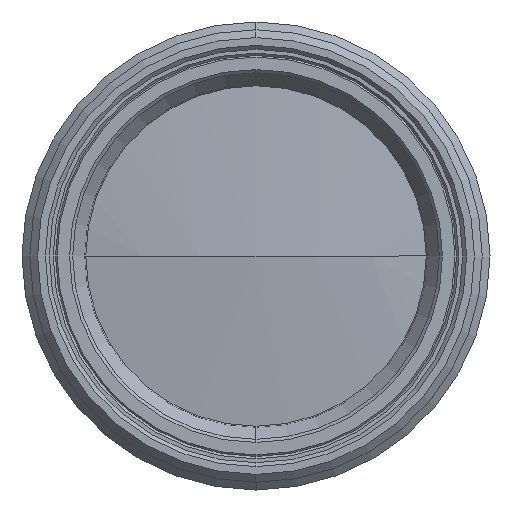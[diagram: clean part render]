
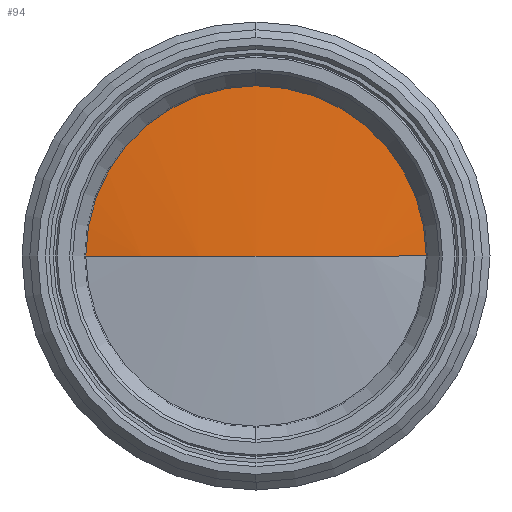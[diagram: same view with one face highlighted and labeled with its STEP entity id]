
A CAD part, left-side view. The second image highlights one B-rep face of the part: STEP entity #94.
In plain terms, the highlighted spherical face has radius 76.4 mm.
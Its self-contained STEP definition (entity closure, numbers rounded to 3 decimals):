
#18 = DIRECTION ( 'NONE',  ( 0., 0., 1. ) ) ;
#94 = ADVANCED_FACE ( 'NONE', ( #2679 ), #2240, .T. ) ;
#128 = ORIENTED_EDGE ( 'NONE', *, *, #1568, .F. ) ;
#184 = CARTESIAN_POINT ( 'NONE',  ( 5.055, 0., 11.01 ) ) ;
#209 = CARTESIAN_POINT ( 'NONE',  ( 4.258, 0., 0. ) ) ;
#237 = DIRECTION ( 'NONE',  ( 0., 1., 0. ) ) ;
#294 = VERTEX_POINT ( 'NONE', #209 ) ;
#649 = CARTESIAN_POINT ( 'NONE',  ( 5.055, -11.01, 0. ) ) ;
#659 = DIRECTION ( 'NONE',  ( 0., -1., 0. ) ) ;
#739 = AXIS2_PLACEMENT_3D ( 'NONE', #2124, #803, #2335 ) ;
#803 = DIRECTION ( 'NONE',  ( 1., 0., 0. ) ) ;
#959 = EDGE_CURVE ( 'NONE', #1095, #2836, #1233, .T. ) ;
#1095 = VERTEX_POINT ( 'NONE', #1600 ) ;
#1205 = CARTESIAN_POINT ( 'NONE',  ( 80.658, 0., 0. ) ) ;
#1233 = CIRCLE ( 'NONE', #739, 11.01 ) ;
#1362 = CARTESIAN_POINT ( 'NONE',  ( 80.658, 0., 0. ) ) ;
#1390 = ORIENTED_EDGE ( 'NONE', *, *, #1610, .F. ) ;
#1400 = AXIS2_PLACEMENT_3D ( 'NONE', #1761, #1984, #659 ) ;
#1402 = DIRECTION ( 'NONE',  ( 1., 0., 0. ) ) ;
#1427 = DIRECTION ( 'NONE',  ( 0., 0., -1. ) ) ;
#1568 = EDGE_CURVE ( 'NONE', #2836, #2628, #2688, .T. ) ;
#1600 = CARTESIAN_POINT ( 'NONE',  ( 5.055, 11.01, 0. ) ) ;
#1610 = EDGE_CURVE ( 'NONE', #294, #1095, #2007, .T. ) ;
#1626 = CARTESIAN_POINT ( 'NONE',  ( 5.055, 0., 0. ) ) ;
#1646 = DIRECTION ( 'NONE',  ( -1., 0., 0. ) ) ;
#1761 = CARTESIAN_POINT ( 'NONE',  ( 80.658, 0., 0. ) ) ;
#1797 = EDGE_CURVE ( 'NONE', #294, #2628, #2640, .T. ) ;
#1984 = DIRECTION ( 'NONE',  ( 0., 0., 1. ) ) ;
#2007 = CIRCLE ( 'NONE', #2833, 76.4 ) ;
#2124 = CARTESIAN_POINT ( 'NONE',  ( 5.055, 0., 0. ) ) ;
#2160 = AXIS2_PLACEMENT_3D ( 'NONE', #1362, #18, #237 ) ;
#2161 = ORIENTED_EDGE ( 'NONE', *, *, #959, .F. ) ;
#2240 = SPHERICAL_SURFACE ( 'NONE', #2160, 76.4 ) ;
#2335 = DIRECTION ( 'NONE',  ( 0., 0., -1. ) ) ;
#2431 = ORIENTED_EDGE ( 'NONE', *, *, #1797, .T. ) ;
#2447 = EDGE_LOOP ( 'NONE', ( #1390, #2431, #128, #2161 ) ) ;
#2506 = DIRECTION ( 'NONE',  ( 0., 0., -1. ) ) ;
#2539 = AXIS2_PLACEMENT_3D ( 'NONE', #1626, #1402, #2506 ) ;
#2628 = VERTEX_POINT ( 'NONE', #649 ) ;
#2640 = CIRCLE ( 'NONE', #1400, 76.4 ) ;
#2679 = FACE_OUTER_BOUND ( 'NONE', #2447, .T. ) ;
#2688 = CIRCLE ( 'NONE', #2539, 11.01 ) ;
#2833 = AXIS2_PLACEMENT_3D ( 'NONE', #1205, #1427, #1646 ) ;
#2836 = VERTEX_POINT ( 'NONE', #184 ) ;
